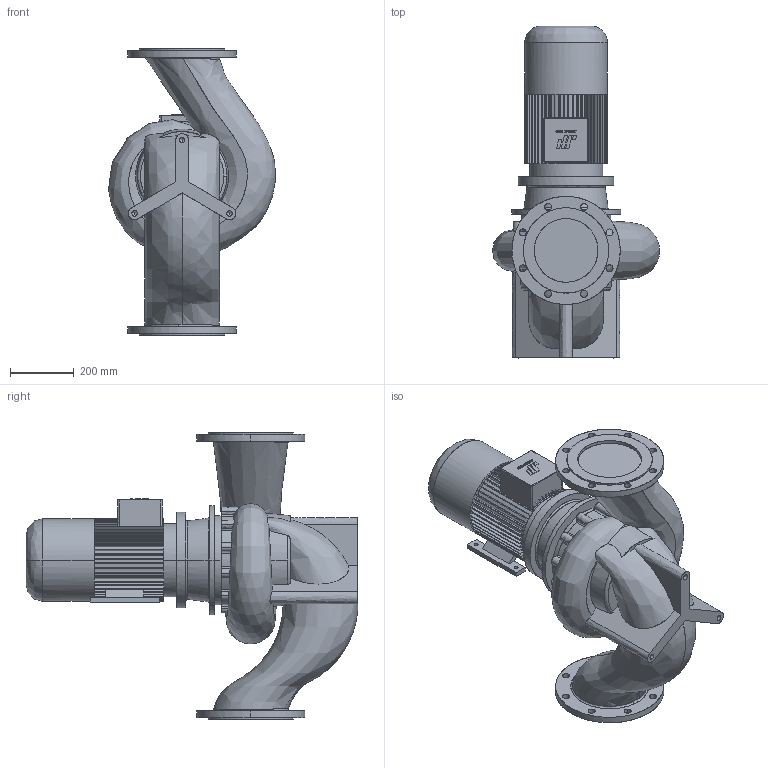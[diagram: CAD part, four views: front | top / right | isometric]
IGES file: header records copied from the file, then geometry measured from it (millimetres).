
Start section: CombiLine
Global section: file name: CLB_200-200_IEC132M_ND10.igs; native system:  By UGS Corp.; preprocessor: XPlus GENERIC/IGES 3.0; author: Stageplaats; organization: Johnson Pump Water B.V.; date: 20070718.091230; units: millimetre
Bounding box: 524.95 x 1042.5 x 900 mm (x, y, z)
Surface area: 2530518.3 mm2 (no closed solid volume)
Topology: 0 solids, 0 shells, 627 faces, 3802 edges, 3796 vertices
Faces by surface type: bspline 627
